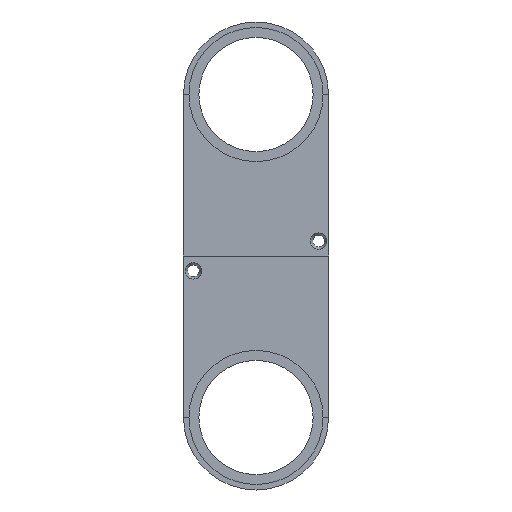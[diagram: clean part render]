
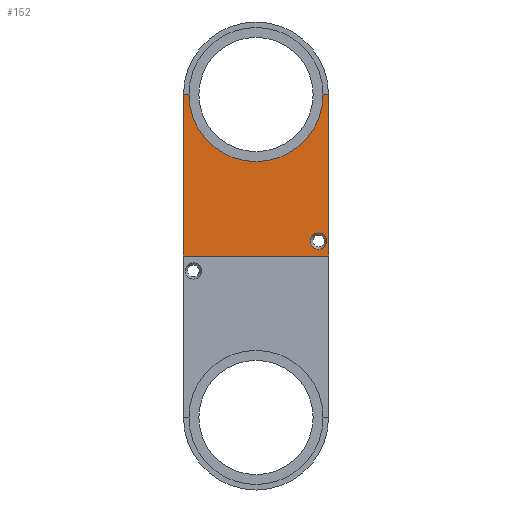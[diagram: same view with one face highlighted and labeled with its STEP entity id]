
A CAD part, left-side view. The second image highlights one B-rep face of the part: STEP entity #152.
In plain terms, the highlighted planar face has unit normal (-1, 0, 0).
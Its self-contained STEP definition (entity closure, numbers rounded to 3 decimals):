
#36 = EDGE_CURVE('',#37,#39,#41,.T.);
#37 = VERTEX_POINT('',#38);
#38 = CARTESIAN_POINT('',(39.25,17.4,65.));
#39 = VERTEX_POINT('',#40);
#40 = CARTESIAN_POINT('',(39.25,46.6,65.));
#41 = SURFACE_CURVE('',#42,(#46,#58),.PCURVE_S1.);
#42 = LINE('',#43,#44);
#43 = CARTESIAN_POINT('',(39.25,17.4,65.));
#44 = VECTOR('',#45,1.);
#45 = DIRECTION('',(0.,1.,0.));
#46 = PCURVE('',#47,#52);
#47 = PLANE('',#48);
#48 = AXIS2_PLACEMENT_3D('',#49,#50,#51);
#49 = CARTESIAN_POINT('',(39.25,17.4,65.));
#50 = DIRECTION('',(0.,0.,1.));
#51 = DIRECTION('',(1.,0.,0.));
#52 = DEFINITIONAL_REPRESENTATION('',(#53),#57);
#53 = LINE('',#54,#55);
#54 = CARTESIAN_POINT('',(0.,0.));
#55 = VECTOR('',#56,1.);
#56 = DIRECTION('',(0.,1.));
#57 = ( GEOMETRIC_REPRESENTATION_CONTEXT(2) 
PARAMETRIC_REPRESENTATION_CONTEXT() REPRESENTATION_CONTEXT('2D SPACE',''
  ) );
#58 = PCURVE('',#59,#64);
#59 = PLANE('',#60);
#60 = AXIS2_PLACEMENT_3D('',#61,#62,#63);
#61 = CARTESIAN_POINT('',(39.25,17.4,32.5));
#62 = DIRECTION('',(1.,0.,0.));
#63 = DIRECTION('',(0.,0.,1.));
#64 = DEFINITIONAL_REPRESENTATION('',(#65),#69);
#65 = LINE('',#66,#67);
#66 = CARTESIAN_POINT('',(32.5,0.));
#67 = VECTOR('',#68,1.);
#68 = DIRECTION('',(0.,-1.));
#69 = ( GEOMETRIC_REPRESENTATION_CONTEXT(2) 
PARAMETRIC_REPRESENTATION_CONTEXT() REPRESENTATION_CONTEXT('2D SPACE',''
  ) );
#87 = PLANE('',#88);
#88 = AXIS2_PLACEMENT_3D('',#89,#90,#91);
#89 = CARTESIAN_POINT('',(39.25,17.4,32.5));
#90 = DIRECTION('',(0.,1.,0.));
#91 = DIRECTION('',(0.,0.,1.));
#141 = PLANE('',#142);
#142 = AXIS2_PLACEMENT_3D('',#143,#144,#145);
#143 = CARTESIAN_POINT('',(39.25,46.6,32.5));
#144 = DIRECTION('',(0.,1.,0.));
#145 = DIRECTION('',(0.,0.,1.));
#152 = ADVANCED_FACE('',(#153,#312),#59,.F.);
#153 = FACE_BOUND('',#154,.F.);
#154 = EDGE_LOOP('',(#155,#178,#206,#239,#267,#290,#311));
#155 = ORIENTED_EDGE('',*,*,#156,.F.);
#156 = EDGE_CURVE('',#157,#37,#159,.T.);
#157 = VERTEX_POINT('',#158);
#158 = CARTESIAN_POINT('',(39.25,17.4,32.5));
#159 = SURFACE_CURVE('',#160,(#164,#171),.PCURVE_S1.);
#160 = LINE('',#161,#162);
#161 = CARTESIAN_POINT('',(39.25,17.4,32.5));
#162 = VECTOR('',#163,1.);
#163 = DIRECTION('',(0.,0.,1.));
#164 = PCURVE('',#59,#165);
#165 = DEFINITIONAL_REPRESENTATION('',(#166),#170);
#166 = LINE('',#167,#168);
#167 = CARTESIAN_POINT('',(0.,0.));
#168 = VECTOR('',#169,1.);
#169 = DIRECTION('',(1.,0.));
#170 = ( GEOMETRIC_REPRESENTATION_CONTEXT(2) 
PARAMETRIC_REPRESENTATION_CONTEXT() REPRESENTATION_CONTEXT('2D SPACE',''
  ) );
#171 = PCURVE('',#87,#172);
#172 = DEFINITIONAL_REPRESENTATION('',(#173),#177);
#173 = LINE('',#174,#175);
#174 = CARTESIAN_POINT('',(0.,0.));
#175 = VECTOR('',#176,1.);
#176 = DIRECTION('',(1.,0.));
#177 = ( GEOMETRIC_REPRESENTATION_CONTEXT(2) 
PARAMETRIC_REPRESENTATION_CONTEXT() REPRESENTATION_CONTEXT('2D SPACE',''
  ) );
#178 = ORIENTED_EDGE('',*,*,#179,.T.);
#179 = EDGE_CURVE('',#157,#180,#182,.T.);
#180 = VERTEX_POINT('',#181);
#181 = CARTESIAN_POINT('',(39.25,18.5,32.5));
#182 = SURFACE_CURVE('',#183,(#187,#194),.PCURVE_S1.);
#183 = LINE('',#184,#185);
#184 = CARTESIAN_POINT('',(39.25,17.4,32.5));
#185 = VECTOR('',#186,1.);
#186 = DIRECTION('',(0.,1.,0.));
#187 = PCURVE('',#59,#188);
#188 = DEFINITIONAL_REPRESENTATION('',(#189),#193);
#189 = LINE('',#190,#191);
#190 = CARTESIAN_POINT('',(0.,0.));
#191 = VECTOR('',#192,1.);
#192 = DIRECTION('',(0.,-1.));
#193 = ( GEOMETRIC_REPRESENTATION_CONTEXT(2) 
PARAMETRIC_REPRESENTATION_CONTEXT() REPRESENTATION_CONTEXT('2D SPACE',''
  ) );
#194 = PCURVE('',#195,#200);
#195 = PLANE('',#196);
#196 = AXIS2_PLACEMENT_3D('',#197,#198,#199);
#197 = CARTESIAN_POINT('',(39.25,32.,32.5));
#198 = DIRECTION('',(-1.,0.,0.));
#199 = DIRECTION('',(0.,1.,0.));
#200 = DEFINITIONAL_REPRESENTATION('',(#201),#205);
#201 = LINE('',#202,#203);
#202 = CARTESIAN_POINT('',(-14.6,0.));
#203 = VECTOR('',#204,1.);
#204 = DIRECTION('',(1.,0.));
#205 = ( GEOMETRIC_REPRESENTATION_CONTEXT(2) 
PARAMETRIC_REPRESENTATION_CONTEXT() REPRESENTATION_CONTEXT('2D SPACE',''
  ) );
#206 = ORIENTED_EDGE('',*,*,#207,.T.);
#207 = EDGE_CURVE('',#180,#208,#210,.T.);
#208 = VERTEX_POINT('',#209);
#209 = CARTESIAN_POINT('',(39.25,32.,46.));
#210 = SURFACE_CURVE('',#211,(#216,#227),.PCURVE_S1.);
#211 = CIRCLE('',#212,13.5);
#212 = AXIS2_PLACEMENT_3D('',#213,#214,#215);
#213 = CARTESIAN_POINT('',(39.25,32.,32.5));
#214 = DIRECTION('',(-1.,0.,0.));
#215 = DIRECTION('',(0.,0.,1.));
#216 = PCURVE('',#59,#217);
#217 = DEFINITIONAL_REPRESENTATION('',(#218),#226);
#218 = ( BOUNDED_CURVE() B_SPLINE_CURVE(2,(#219,#220,#221,#222,#223,#224
,#225),.UNSPECIFIED.,.F.,.F.) B_SPLINE_CURVE_WITH_KNOTS((1,2,2,2,2,1),(
    -2.094,0.,2.094,4.189,6.283,
8.378),.UNSPECIFIED.) CURVE() GEOMETRIC_REPRESENTATION_ITEM() 
RATIONAL_B_SPLINE_CURVE((1.,0.5,1.,0.5,1.,0.5,1.)) REPRESENTATION_ITEM(
  '') );
#219 = CARTESIAN_POINT('',(13.5,-14.6));
#220 = CARTESIAN_POINT('',(13.5,-37.983));
#221 = CARTESIAN_POINT('',(-6.75,-26.291));
#222 = CARTESIAN_POINT('',(-27.,-14.6));
#223 = CARTESIAN_POINT('',(-6.75,-2.909));
#224 = CARTESIAN_POINT('',(13.5,8.783));
#225 = CARTESIAN_POINT('',(13.5,-14.6));
#226 = ( GEOMETRIC_REPRESENTATION_CONTEXT(2) 
PARAMETRIC_REPRESENTATION_CONTEXT() REPRESENTATION_CONTEXT('2D SPACE',''
  ) );
#227 = PCURVE('',#228,#233);
#228 = CYLINDRICAL_SURFACE('',#229,13.5);
#229 = AXIS2_PLACEMENT_3D('',#230,#231,#232);
#230 = CARTESIAN_POINT('',(40.25,32.,32.5));
#231 = DIRECTION('',(-1.,0.,0.));
#232 = DIRECTION('',(0.,0.,1.));
#233 = DEFINITIONAL_REPRESENTATION('',(#234),#238);
#234 = LINE('',#235,#236);
#235 = CARTESIAN_POINT('',(0.,1.));
#236 = VECTOR('',#237,1.);
#237 = DIRECTION('',(1.,0.));
#238 = ( GEOMETRIC_REPRESENTATION_CONTEXT(2) 
PARAMETRIC_REPRESENTATION_CONTEXT() REPRESENTATION_CONTEXT('2D SPACE',''
  ) );
#239 = ORIENTED_EDGE('',*,*,#240,.T.);
#240 = EDGE_CURVE('',#208,#241,#243,.T.);
#241 = VERTEX_POINT('',#242);
#242 = CARTESIAN_POINT('',(39.25,45.5,32.5));
#243 = SURFACE_CURVE('',#244,(#249,#260),.PCURVE_S1.);
#244 = CIRCLE('',#245,13.5);
#245 = AXIS2_PLACEMENT_3D('',#246,#247,#248);
#246 = CARTESIAN_POINT('',(39.25,32.,32.5));
#247 = DIRECTION('',(-1.,0.,0.));
#248 = DIRECTION('',(0.,0.,1.));
#249 = PCURVE('',#59,#250);
#250 = DEFINITIONAL_REPRESENTATION('',(#251),#259);
#251 = ( BOUNDED_CURVE() B_SPLINE_CURVE(2,(#252,#253,#254,#255,#256,#257
,#258),.UNSPECIFIED.,.F.,.F.) B_SPLINE_CURVE_WITH_KNOTS((1,2,2,2,2,1),(
    -2.094,0.,2.094,4.189,6.283,
8.378),.UNSPECIFIED.) CURVE() GEOMETRIC_REPRESENTATION_ITEM() 
RATIONAL_B_SPLINE_CURVE((1.,0.5,1.,0.5,1.,0.5,1.)) REPRESENTATION_ITEM(
  '') );
#252 = CARTESIAN_POINT('',(13.5,-14.6));
#253 = CARTESIAN_POINT('',(13.5,-37.983));
#254 = CARTESIAN_POINT('',(-6.75,-26.291));
#255 = CARTESIAN_POINT('',(-27.,-14.6));
#256 = CARTESIAN_POINT('',(-6.75,-2.909));
#257 = CARTESIAN_POINT('',(13.5,8.783));
#258 = CARTESIAN_POINT('',(13.5,-14.6));
#259 = ( GEOMETRIC_REPRESENTATION_CONTEXT(2) 
PARAMETRIC_REPRESENTATION_CONTEXT() REPRESENTATION_CONTEXT('2D SPACE',''
  ) );
#260 = PCURVE('',#228,#261);
#261 = DEFINITIONAL_REPRESENTATION('',(#262),#266);
#262 = LINE('',#263,#264);
#263 = CARTESIAN_POINT('',(0.,1.));
#264 = VECTOR('',#265,1.);
#265 = DIRECTION('',(1.,0.));
#266 = ( GEOMETRIC_REPRESENTATION_CONTEXT(2) 
PARAMETRIC_REPRESENTATION_CONTEXT() REPRESENTATION_CONTEXT('2D SPACE',''
  ) );
#267 = ORIENTED_EDGE('',*,*,#268,.T.);
#268 = EDGE_CURVE('',#241,#269,#271,.T.);
#269 = VERTEX_POINT('',#270);
#270 = CARTESIAN_POINT('',(39.25,46.6,32.5));
#271 = SURFACE_CURVE('',#272,(#276,#283),.PCURVE_S1.);
#272 = LINE('',#273,#274);
#273 = CARTESIAN_POINT('',(39.25,17.4,32.5));
#274 = VECTOR('',#275,1.);
#275 = DIRECTION('',(0.,1.,0.));
#276 = PCURVE('',#59,#277);
#277 = DEFINITIONAL_REPRESENTATION('',(#278),#282);
#278 = LINE('',#279,#280);
#279 = CARTESIAN_POINT('',(0.,0.));
#280 = VECTOR('',#281,1.);
#281 = DIRECTION('',(0.,-1.));
#282 = ( GEOMETRIC_REPRESENTATION_CONTEXT(2) 
PARAMETRIC_REPRESENTATION_CONTEXT() REPRESENTATION_CONTEXT('2D SPACE',''
  ) );
#283 = PCURVE('',#195,#284);
#284 = DEFINITIONAL_REPRESENTATION('',(#285),#289);
#285 = LINE('',#286,#287);
#286 = CARTESIAN_POINT('',(-14.6,0.));
#287 = VECTOR('',#288,1.);
#288 = DIRECTION('',(1.,0.));
#289 = ( GEOMETRIC_REPRESENTATION_CONTEXT(2) 
PARAMETRIC_REPRESENTATION_CONTEXT() REPRESENTATION_CONTEXT('2D SPACE',''
  ) );
#290 = ORIENTED_EDGE('',*,*,#291,.T.);
#291 = EDGE_CURVE('',#269,#39,#292,.T.);
#292 = SURFACE_CURVE('',#293,(#297,#304),.PCURVE_S1.);
#293 = LINE('',#294,#295);
#294 = CARTESIAN_POINT('',(39.25,46.6,32.5));
#295 = VECTOR('',#296,1.);
#296 = DIRECTION('',(0.,0.,1.));
#297 = PCURVE('',#59,#298);
#298 = DEFINITIONAL_REPRESENTATION('',(#299),#303);
#299 = LINE('',#300,#301);
#300 = CARTESIAN_POINT('',(0.,-29.2));
#301 = VECTOR('',#302,1.);
#302 = DIRECTION('',(1.,0.));
#303 = ( GEOMETRIC_REPRESENTATION_CONTEXT(2) 
PARAMETRIC_REPRESENTATION_CONTEXT() REPRESENTATION_CONTEXT('2D SPACE',''
  ) );
#304 = PCURVE('',#141,#305);
#305 = DEFINITIONAL_REPRESENTATION('',(#306),#310);
#306 = LINE('',#307,#308);
#307 = CARTESIAN_POINT('',(0.,0.));
#308 = VECTOR('',#309,1.);
#309 = DIRECTION('',(1.,0.));
#310 = ( GEOMETRIC_REPRESENTATION_CONTEXT(2) 
PARAMETRIC_REPRESENTATION_CONTEXT() REPRESENTATION_CONTEXT('2D SPACE',''
  ) );
#311 = ORIENTED_EDGE('',*,*,#36,.F.);
#312 = FACE_BOUND('',#313,.F.);
#313 = EDGE_LOOP('',(#314));
#314 = ORIENTED_EDGE('',*,*,#315,.T.);
#315 = EDGE_CURVE('',#316,#316,#318,.T.);
#316 = VERTEX_POINT('',#317);
#317 = CARTESIAN_POINT('',(39.25,44.6,63.65));
#318 = SURFACE_CURVE('',#319,(#324,#335),.PCURVE_S1.);
#319 = CIRCLE('',#320,1.65);
#320 = AXIS2_PLACEMENT_3D('',#321,#322,#323);
#321 = CARTESIAN_POINT('',(39.25,44.6,62.));
#322 = DIRECTION('',(-1.,0.,0.));
#323 = DIRECTION('',(0.,0.,1.));
#324 = PCURVE('',#59,#325);
#325 = DEFINITIONAL_REPRESENTATION('',(#326),#334);
#326 = ( BOUNDED_CURVE() B_SPLINE_CURVE(2,(#327,#328,#329,#330,#331,#332
,#333),.UNSPECIFIED.,.T.,.F.) B_SPLINE_CURVE_WITH_KNOTS((1,2,2,2,2,1),(
    -2.094,0.,2.094,4.189,6.283,
8.378),.UNSPECIFIED.) CURVE() GEOMETRIC_REPRESENTATION_ITEM() 
RATIONAL_B_SPLINE_CURVE((1.,0.5,1.,0.5,1.,0.5,1.)) REPRESENTATION_ITEM(
  '') );
#327 = CARTESIAN_POINT('',(31.15,-27.2));
#328 = CARTESIAN_POINT('',(31.15,-30.058));
#329 = CARTESIAN_POINT('',(28.675,-28.629));
#330 = CARTESIAN_POINT('',(26.2,-27.2));
#331 = CARTESIAN_POINT('',(28.675,-25.771));
#332 = CARTESIAN_POINT('',(31.15,-24.342));
#333 = CARTESIAN_POINT('',(31.15,-27.2));
#334 = ( GEOMETRIC_REPRESENTATION_CONTEXT(2) 
PARAMETRIC_REPRESENTATION_CONTEXT() REPRESENTATION_CONTEXT('2D SPACE',''
  ) );
#335 = PCURVE('',#336,#341);
#336 = CONICAL_SURFACE('',#337,1.1,0.43);
#337 = AXIS2_PLACEMENT_3D('',#338,#339,#340);
#338 = CARTESIAN_POINT('',(40.45,44.6,62.));
#339 = DIRECTION('',(-1.,0.,0.));
#340 = DIRECTION('',(0.,0.,1.));
#341 = DEFINITIONAL_REPRESENTATION('',(#342),#346);
#342 = LINE('',#343,#344);
#343 = CARTESIAN_POINT('',(0.,1.2));
#344 = VECTOR('',#345,1.);
#345 = DIRECTION('',(1.,0.));
#346 = ( GEOMETRIC_REPRESENTATION_CONTEXT(2) 
PARAMETRIC_REPRESENTATION_CONTEXT() REPRESENTATION_CONTEXT('2D SPACE',''
  ) );
